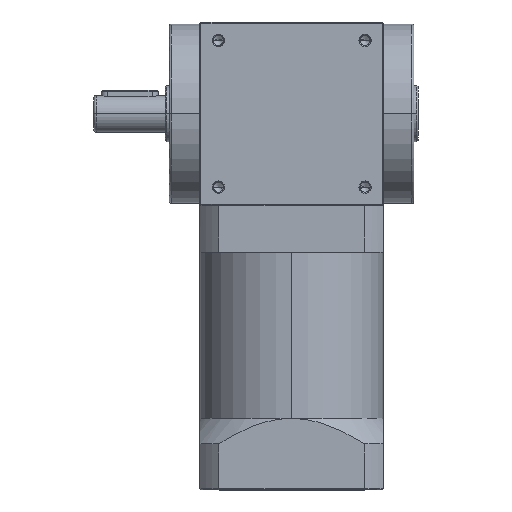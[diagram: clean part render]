
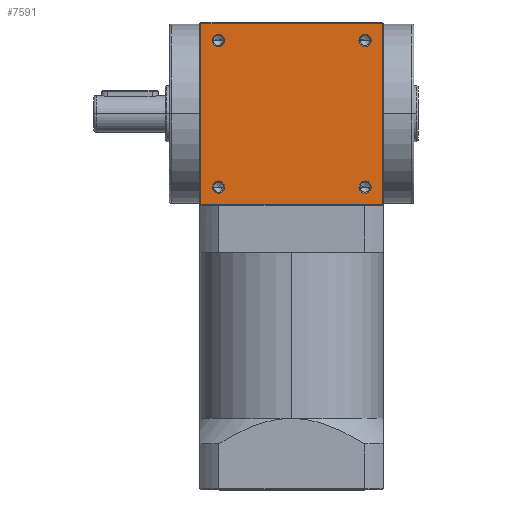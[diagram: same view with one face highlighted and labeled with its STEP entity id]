
A CAD part, top view. The second image highlights one B-rep face of the part: STEP entity #7591.
In plain terms, the highlighted planar face has unit normal (0, 0, 1).
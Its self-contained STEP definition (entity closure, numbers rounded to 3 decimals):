
#21 = ORIENTED_EDGE ( 'NONE', *, *, #7242, .T. ) ;
#89 = VERTEX_POINT ( 'NONE', #6063 ) ;
#96 = VERTEX_POINT ( 'NONE', #5966 ) ;
#169 = CARTESIAN_POINT ( 'NONE',  ( 33., 36., 45. ) ) ;
#248 = LINE ( 'NONE', #2792, #3246 ) ;
#338 = VERTEX_POINT ( 'NONE', #2221 ) ;
#365 = DIRECTION ( 'NONE',  ( 0., 0., -1. ) ) ;
#486 = EDGE_CURVE ( 'NONE', #2229, #338, #3096, .T. ) ;
#536 = DIRECTION ( 'NONE',  ( 0., 0., -1. ) ) ;
#658 = LINE ( 'NONE', #3710, #3062 ) ;
#862 = CARTESIAN_POINT ( 'NONE',  ( -44.5, 44.5, 45. ) ) ;
#863 = AXIS2_PLACEMENT_3D ( 'NONE', #6357, #1745, #3961 ) ;
#889 = DIRECTION ( 'NONE',  ( -1., 0., 0. ) ) ;
#900 = CARTESIAN_POINT ( 'NONE',  ( 0., 0., 45. ) ) ;
#1151 = CARTESIAN_POINT ( 'NONE',  ( 36., 36., 45. ) ) ;
#1168 = FACE_BOUND ( 'NONE', #8959, .T. ) ;
#1261 = AXIS2_PLACEMENT_3D ( 'NONE', #7718, #8753, #5063 ) ;
#1370 = DIRECTION ( 'NONE',  ( 1., 0., 0. ) ) ;
#1678 = AXIS2_PLACEMENT_3D ( 'NONE', #4015, #1767, #6340 ) ;
#1721 = DIRECTION ( 'NONE',  ( -1., 0., 0. ) ) ;
#1745 = DIRECTION ( 'NONE',  ( 0., 0., -1. ) ) ;
#1767 = DIRECTION ( 'NONE',  ( 0., 0., -1. ) ) ;
#1784 = PLANE ( 'NONE',  #2035 ) ;
#1881 = FACE_BOUND ( 'NONE', #5873, .T. ) ;
#1919 = CARTESIAN_POINT ( 'NONE',  ( 36., 36., 45. ) ) ;
#1983 = CIRCLE ( 'NONE', #1261, 3. ) ;
#2001 = EDGE_CURVE ( 'NONE', #8969, #9705, #248, .T. ) ;
#2035 = AXIS2_PLACEMENT_3D ( 'NONE', #900, #2459, #4107 ) ;
#2079 = CARTESIAN_POINT ( 'NONE',  ( -33., 36., 45. ) ) ;
#2130 = ORIENTED_EDGE ( 'NONE', *, *, #2001, .T. ) ;
#2221 = CARTESIAN_POINT ( 'NONE',  ( 39., 36., 45. ) ) ;
#2229 = VERTEX_POINT ( 'NONE', #169 ) ;
#2233 = FACE_OUTER_BOUND ( 'NONE', #3196, .T. ) ;
#2276 = CARTESIAN_POINT ( 'NONE',  ( -44.5, 0., 45. ) ) ;
#2290 = LINE ( 'NONE', #2276, #6038 ) ;
#2359 = FACE_BOUND ( 'NONE', #9038, .T. ) ;
#2425 = EDGE_CURVE ( 'NONE', #338, #2229, #2516, .T. ) ;
#2459 = DIRECTION ( 'NONE',  ( 0., 0., -1. ) ) ;
#2482 = ORIENTED_EDGE ( 'NONE', *, *, #2425, .T. ) ;
#2502 = DIRECTION ( 'NONE',  ( 0., 0., -1. ) ) ;
#2516 = CIRCLE ( 'NONE', #8248, 3. ) ;
#2612 = AXIS2_PLACEMENT_3D ( 'NONE', #5168, #536, #6594 ) ;
#2671 = CIRCLE ( 'NONE', #3220, 3. ) ;
#2695 = EDGE_CURVE ( 'NONE', #9705, #5500, #2290, .T. ) ;
#2792 = CARTESIAN_POINT ( 'NONE',  ( 0., 44.5, 45. ) ) ;
#2850 = DIRECTION ( 'NONE',  ( -1., 0., 0. ) ) ;
#2897 = CIRCLE ( 'NONE', #1678, 3. ) ;
#3016 = CARTESIAN_POINT ( 'NONE',  ( 44.5, 0., 45. ) ) ;
#3062 = VECTOR ( 'NONE', #1370, 1000. ) ;
#3070 = VERTEX_POINT ( 'NONE', #7923 ) ;
#3096 = CIRCLE ( 'NONE', #9907, 3. ) ;
#3196 = EDGE_LOOP ( 'NONE', ( #6571, #5977, #9686, #2130 ) ) ;
#3199 = EDGE_CURVE ( 'NONE', #3070, #96, #9350, .T. ) ;
#3220 = AXIS2_PLACEMENT_3D ( 'NONE', #6365, #2502, #1721 ) ;
#3246 = VECTOR ( 'NONE', #2850, 1000. ) ;
#3426 = DIRECTION ( 'NONE',  ( 0., 0., -1. ) ) ;
#3531 = VERTEX_POINT ( 'NONE', #2079 ) ;
#3710 = CARTESIAN_POINT ( 'NONE',  ( 0., -44.5, 45. ) ) ;
#3785 = DIRECTION ( 'NONE',  ( 0., -1., 0. ) ) ;
#3883 = DIRECTION ( 'NONE',  ( 0., 0., -1. ) ) ;
#3961 = DIRECTION ( 'NONE',  ( -1., 0., 0. ) ) ;
#4015 = CARTESIAN_POINT ( 'NONE',  ( -36., -36., 45. ) ) ;
#4107 = DIRECTION ( 'NONE',  ( -1., 0., 0. ) ) ;
#4328 = ORIENTED_EDGE ( 'NONE', *, *, #3199, .T. ) ;
#4371 = ORIENTED_EDGE ( 'NONE', *, *, #5862, .T. ) ;
#4399 = EDGE_CURVE ( 'NONE', #7729, #8934, #1983, .T. ) ;
#4632 = ORIENTED_EDGE ( 'NONE', *, *, #486, .T. ) ;
#5063 = DIRECTION ( 'NONE',  ( -1., 0., 0. ) ) ;
#5074 = CIRCLE ( 'NONE', #8393, 3. ) ;
#5168 = CARTESIAN_POINT ( 'NONE',  ( -36., 36., 45. ) ) ;
#5500 = VERTEX_POINT ( 'NONE', #6956 ) ;
#5608 = VERTEX_POINT ( 'NONE', #9443 ) ;
#5862 = EDGE_CURVE ( 'NONE', #8934, #7729, #2897, .T. ) ;
#5873 = EDGE_LOOP ( 'NONE', ( #21, #6840 ) ) ;
#5966 = CARTESIAN_POINT ( 'NONE',  ( 39., -36., 45. ) ) ;
#5977 = ORIENTED_EDGE ( 'NONE', *, *, #7899, .T. ) ;
#5981 = EDGE_CURVE ( 'NONE', #96, #3070, #2671, .T. ) ;
#6038 = VECTOR ( 'NONE', #3785, 1000. ) ;
#6063 = CARTESIAN_POINT ( 'NONE',  ( -39., 36., 45. ) ) ;
#6340 = DIRECTION ( 'NONE',  ( -1., 0., 0. ) ) ;
#6357 = CARTESIAN_POINT ( 'NONE',  ( 36., -36., 45. ) ) ;
#6365 = CARTESIAN_POINT ( 'NONE',  ( 36., -36., 45. ) ) ;
#6498 = FACE_BOUND ( 'NONE', #8585, .T. ) ;
#6571 = ORIENTED_EDGE ( 'NONE', *, *, #2695, .T. ) ;
#6594 = DIRECTION ( 'NONE',  ( -1., 0., 0. ) ) ;
#6830 = EDGE_CURVE ( 'NONE', #89, #3531, #5074, .T. ) ;
#6840 = ORIENTED_EDGE ( 'NONE', *, *, #6830, .T. ) ;
#6948 = CARTESIAN_POINT ( 'NONE',  ( -36., 36., 45. ) ) ;
#6956 = CARTESIAN_POINT ( 'NONE',  ( -44.5, -44.5, 45. ) ) ;
#7242 = EDGE_CURVE ( 'NONE', #3531, #89, #9716, .T. ) ;
#7278 = VECTOR ( 'NONE', #9283, 1000. ) ;
#7331 = DIRECTION ( 'NONE',  ( -1., 0., 0. ) ) ;
#7591 = ADVANCED_FACE ( 'NONE', ( #2233, #2359, #6498, #1168, #1881 ), #1784, .F. ) ;
#7718 = CARTESIAN_POINT ( 'NONE',  ( -36., -36., 45. ) ) ;
#7729 = VERTEX_POINT ( 'NONE', #9043 ) ;
#7850 = LINE ( 'NONE', #3016, #7278 ) ;
#7899 = EDGE_CURVE ( 'NONE', #5500, #5608, #658, .T. ) ;
#7923 = CARTESIAN_POINT ( 'NONE',  ( 33., -36., 45. ) ) ;
#7940 = CARTESIAN_POINT ( 'NONE',  ( -39., -36., 45. ) ) ;
#8017 = DIRECTION ( 'NONE',  ( -1., 0., 0. ) ) ;
#8188 = CARTESIAN_POINT ( 'NONE',  ( 44.5, 44.5, 45. ) ) ;
#8248 = AXIS2_PLACEMENT_3D ( 'NONE', #1919, #3426, #7331 ) ;
#8393 = AXIS2_PLACEMENT_3D ( 'NONE', #6948, #3883, #889 ) ;
#8585 = EDGE_LOOP ( 'NONE', ( #8870, #4371 ) ) ;
#8753 = DIRECTION ( 'NONE',  ( 0., 0., -1. ) ) ;
#8792 = ORIENTED_EDGE ( 'NONE', *, *, #5981, .T. ) ;
#8819 = EDGE_CURVE ( 'NONE', #5608, #8969, #7850, .T. ) ;
#8870 = ORIENTED_EDGE ( 'NONE', *, *, #4399, .T. ) ;
#8934 = VERTEX_POINT ( 'NONE', #7940 ) ;
#8959 = EDGE_LOOP ( 'NONE', ( #2482, #4632 ) ) ;
#8969 = VERTEX_POINT ( 'NONE', #8188 ) ;
#9038 = EDGE_LOOP ( 'NONE', ( #8792, #4328 ) ) ;
#9043 = CARTESIAN_POINT ( 'NONE',  ( -33., -36., 45. ) ) ;
#9283 = DIRECTION ( 'NONE',  ( 0., 1., 0. ) ) ;
#9350 = CIRCLE ( 'NONE', #863, 3. ) ;
#9443 = CARTESIAN_POINT ( 'NONE',  ( 44.5, -44.5, 45. ) ) ;
#9686 = ORIENTED_EDGE ( 'NONE', *, *, #8819, .T. ) ;
#9705 = VERTEX_POINT ( 'NONE', #862 ) ;
#9716 = CIRCLE ( 'NONE', #2612, 3. ) ;
#9907 = AXIS2_PLACEMENT_3D ( 'NONE', #1151, #365, #8017 ) ;
